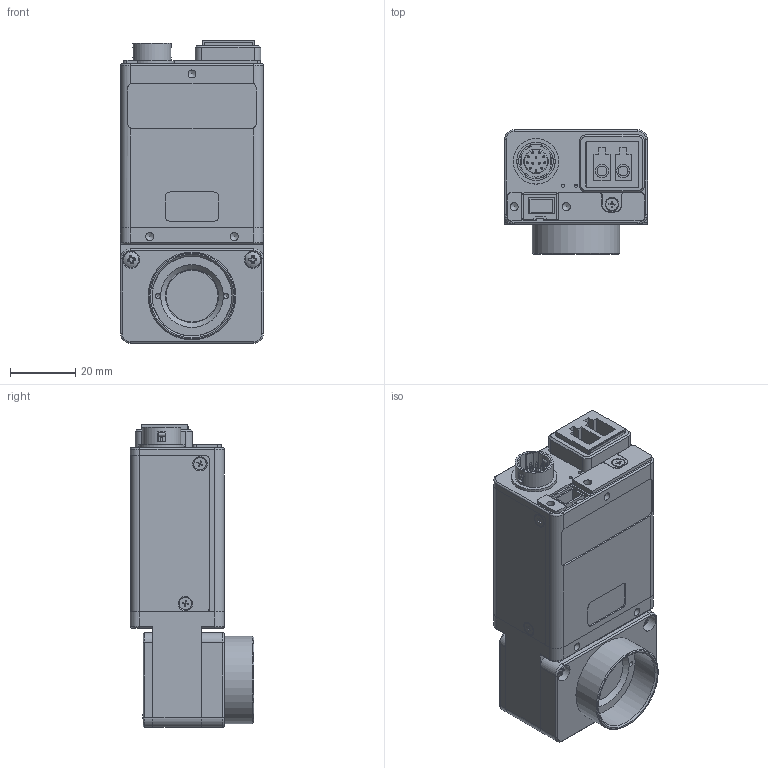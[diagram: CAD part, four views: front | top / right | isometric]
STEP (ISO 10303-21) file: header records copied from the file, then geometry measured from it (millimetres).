
FILE_DESCRIPTION((''),'2;1');
FILE_NAME('\\Avtnet.local\dfs-mechanics\Inventor\Kamerafamilien\Stingray\STEP-Dateien_Stingray\Vorlagen_STP\Stingray_W270_GOF.stp','2010-03-09T17:45:01',('mressin'),(''),'Autodesk Inventor 11','Autodesk Inventor 11','');
FILE_SCHEMA(('AUTOMOTIVE_DESIGN { 1 0 10303 214 1 1 1 1 }'));
Length unit declared in the file: millimetre
Products named in the file (35): Stingray_W270_GOF; K5000899_Stingray_WinkeladapterW90oderW270; BGR-Stingray Untergruppe GOF; K5000885_ET-Stingray Unterteil GOF; K5000898_ET-Stingray Kragen GOF; M3-F-IF-CG1; K5510148_Senkschraube ISO7046-M2x3-A2-sw; K7510253_LP-Stingray-IO-Board 1v0_ZUS; STECKER-KPL-K7600043; Pinträger-10J43_2; PinB-lang-10J43; PinB-kurz-10J43; Trägerfassung-10J43; K7500265_PCB_IO Board; HIROSE-12pol-klemmring; HIROSE-12pol-6kt-ring; Microcontroller BOARD M3; K5510093_Linsenschraube mit KS ISO7045-M2x10-A2; K5000878_ET-Stingray Blechdeckel; K7600567_Abstandshülse-SMTSO-2.1-5 ET; K4000230_Frontflansch mit ICX414AL; K5000892_ET-Stingray Sensorauflage ICX414+ICX415; K5001064_Stingray_Frontflansch-einteilig ; K5510156_Linsenschraube mit KS ISO7045-M2x8-A2; M3-SB-ICX414_kaumBestueckt; M3-SB-ICX414-Board; CON45_AVXELCO_6240_-_INVERTED_PINS_0_0866_J; K8150044_Sensor ICX414AL-E BW; K5001065_Stingray-Abstimmscheibe; K5000900_Abdeckung-Winkeladapter; K5510149_Linsenschraube ISO7045-M2,5x10-A2-sw; K4000201_Filterhalter mit IRF-Hoya_geklebt_ZUS; K5000806_Filterhalter 16mm; K5100173_OT-Filter Hoya C-5000 (16x1)
Assembly tree (63 placements, depth 6):
  Stingray_W270_GOF
    K5000899_Stingray_WinkeladapterW90oderW270
    BGR-Stingray Untergruppe GOF
      K5000885_ET-Stingray Unterteil GOF
      K5000898_ET-Stingray Kragen GOF
      M3-F-IF-CG1
      K5510148_Senkschraube ISO7046-M2x3-A2-sw  x6
      K7510253_LP-Stingray-IO-Board 1v0_ZUS
        STECKER-KPL-K7600043
          Pinträger-10J43_2
            Pinträger-10J43_2
            PinB-lang-10J43  x3
            PinB-kurz-10J43  x9
          Trägerfassung-10J43
        K7500265_PCB_IO Board
        HIROSE-12pol-klemmring
        HIROSE-12pol-6kt-ring
      Microcontroller BOARD M3
      K5510093_Linsenschraube mit KS ISO7045-M2x10-A2  x4
      K5000878_ET-Stingray Blechdeckel
      K7600567_Abstandshülse-SMTSO-2.1-5 ET  x4
    K4000230_Frontflansch mit ICX414AL
      K5000892_ET-Stingray Sensorauflage ICX414+ICX415
      K5001064_Stingray_Frontflansch-einteilig 
      K5510156_Linsenschraube mit KS ISO7045-M2x8-A2  x4
      M3-SB-ICX414_kaumBestueckt
        M3-SB-ICX414-Board
        CON45_AVXELCO_6240_-_INVERTED_PINS_0_0866_J
        K8150044_Sensor ICX414AL-E BW
      K5001065_Stingray-Abstimmscheibe
    K5000900_Abdeckung-Winkeladapter
    K5510149_Linsenschraube ISO7045-M2,5x10-A2-sw  x6
    K4000201_Filterhalter mit IRF-Hoya_geklebt_ZUS
      K5000806_Filterhalter 16mm
      K5100173_OT-Filter Hoya C-5000 (16x1)
Bounding box: 44 x 38.1 x 93 mm (x, y, z)
Volume: 47930.6 mm3; surface area: 61967.7 mm2
Topology: 56 solids, 56 shells, 2611 faces, 6798 edges, 4429 vertices
Faces by surface type: plane 1227, cylinder 615, bspline 474, cone 263, torus 18, sphere 14
Full cylindrical faces by diameter (mm): 0.2 x169, 0.5 x12, 0.6 x28, 0.623 x21, 1.1 x12, 1.5 x1, 1.509 x6, 1.8 x8, 2 x20, 2.1 x8, 2.2 x11, 2.275 x6, 2.3 x4, 2.5 x6, 2.7 x2, 2.8 x4, 3 x2, 3.8 x6, 4 x2, 4.5 x4, 5.3 x2, 7.5 x1, 8.5 x1, 10.6 x1, 10.8 x3, 11.8 x1, 14 x3, 16 x1, 16.3 x1, 22 x1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
Entity records: 63467 total; most frequent: CARTESIAN_POINT 15587, ORIENTED_EDGE 9508, DIRECTION 8889, EDGE_CURVE 4754, VERTEX_POINT 3398, EDGE_LOOP 3044, AXIS2_PLACEMENT_3D 3029, VECTOR 2831
